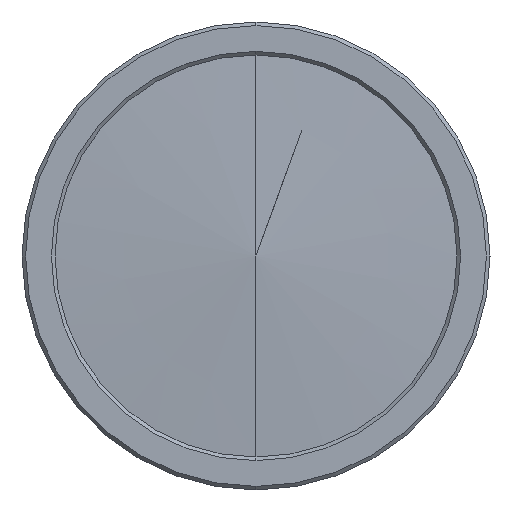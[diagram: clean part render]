
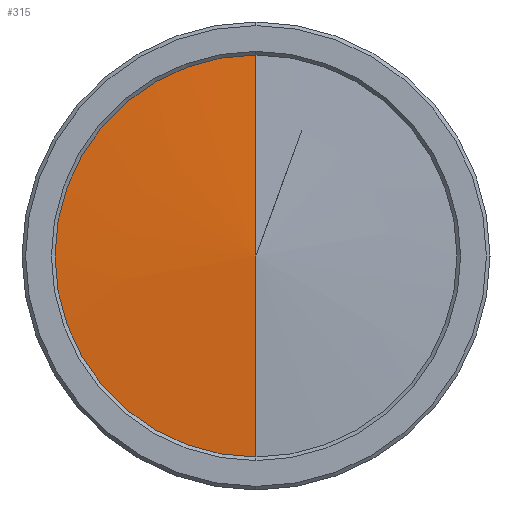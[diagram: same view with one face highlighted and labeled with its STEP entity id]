
A CAD part, left-side view. The second image highlights one B-rep face of the part: STEP entity #315.
In plain terms, the highlighted conical face has half-angle 86.648 degrees and reference radius 18.189 mm.
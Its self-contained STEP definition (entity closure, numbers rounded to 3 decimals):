
#20 = DIRECTION ( 'NONE',  ( 0., 0., -1. ) ) ;
#104 = ORIENTED_EDGE ( 'NONE', *, *, #481, .F. ) ;
#116 = CARTESIAN_POINT ( 'NONE',  ( 1.065, 0., -18.189 ) ) ;
#120 = LINE ( 'NONE', #1516, #284 ) ;
#139 = DIRECTION ( 'NONE',  ( 0., 0., -1. ) ) ;
#151 = EDGE_CURVE ( 'NONE', #1466, #361, #194, .T. ) ;
#194 = CIRCLE ( 'NONE', #893, 16.75 ) ;
#197 = DIRECTION ( 'NONE',  ( 0., 0., -1. ) ) ;
#199 = EDGE_CURVE ( 'NONE', #340, #1466, #1230, .T. ) ;
#284 = VECTOR ( 'NONE', #561, 1000. ) ;
#315 = ADVANCED_FACE ( 'NONE', ( #1801 ), #502, .T. ) ;
#340 = VERTEX_POINT ( 'NONE', #1006 ) ;
#361 = VERTEX_POINT ( 'NONE', #1993 ) ;
#417 = VERTEX_POINT ( 'NONE', #1527 ) ;
#481 = EDGE_CURVE ( 'NONE', #417, #340, #1508, .T. ) ;
#502 = CONICAL_SURFACE ( 'NONE', #1825, 18.189, 1.512 ) ;
#528 = ORIENTED_EDGE ( 'NONE', *, *, #1054, .T. ) ;
#561 = DIRECTION ( 'NONE',  ( 0.058, 0., 0.998 ) ) ;
#771 = CARTESIAN_POINT ( 'NONE',  ( 0.981, 0., 0. ) ) ;
#843 = CARTESIAN_POINT ( 'NONE',  ( 0.981, 16.75, 0. ) ) ;
#882 = EDGE_LOOP ( 'NONE', ( #104, #528, #1892, #1438 ) ) ;
#893 = AXIS2_PLACEMENT_3D ( 'NONE', #771, #926, #139 ) ;
#900 = DIRECTION ( 'NONE',  ( 0.058, 0., -0.998 ) ) ;
#926 = DIRECTION ( 'NONE',  ( 1., 0., 0. ) ) ;
#979 = DIRECTION ( 'NONE',  ( 1., 0., 0. ) ) ;
#1006 = CARTESIAN_POINT ( 'NONE',  ( 0.981, 0., -16.75 ) ) ;
#1054 = EDGE_CURVE ( 'NONE', #417, #361, #120, .T. ) ;
#1157 = CARTESIAN_POINT ( 'NONE',  ( 1.065, 0., 0. ) ) ;
#1227 = VECTOR ( 'NONE', #900, 1000. ) ;
#1230 = CIRCLE ( 'NONE', #1649, 16.75 ) ;
#1274 = CARTESIAN_POINT ( 'NONE',  ( 0.981, 0., 0. ) ) ;
#1331 = DIRECTION ( 'NONE',  ( 1., 0., 0. ) ) ;
#1438 = ORIENTED_EDGE ( 'NONE', *, *, #199, .F. ) ;
#1466 = VERTEX_POINT ( 'NONE', #843 ) ;
#1508 = LINE ( 'NONE', #116, #1227 ) ;
#1516 = CARTESIAN_POINT ( 'NONE',  ( 1.065, 0., 18.189 ) ) ;
#1527 = CARTESIAN_POINT ( 'NONE',  ( 0., 0., 0. ) ) ;
#1649 = AXIS2_PLACEMENT_3D ( 'NONE', #1274, #979, #20 ) ;
#1801 = FACE_OUTER_BOUND ( 'NONE', #882, .T. ) ;
#1825 = AXIS2_PLACEMENT_3D ( 'NONE', #1157, #1331, #197 ) ;
#1892 = ORIENTED_EDGE ( 'NONE', *, *, #151, .F. ) ;
#1993 = CARTESIAN_POINT ( 'NONE',  ( 0.981, 0., 16.75 ) ) ;
